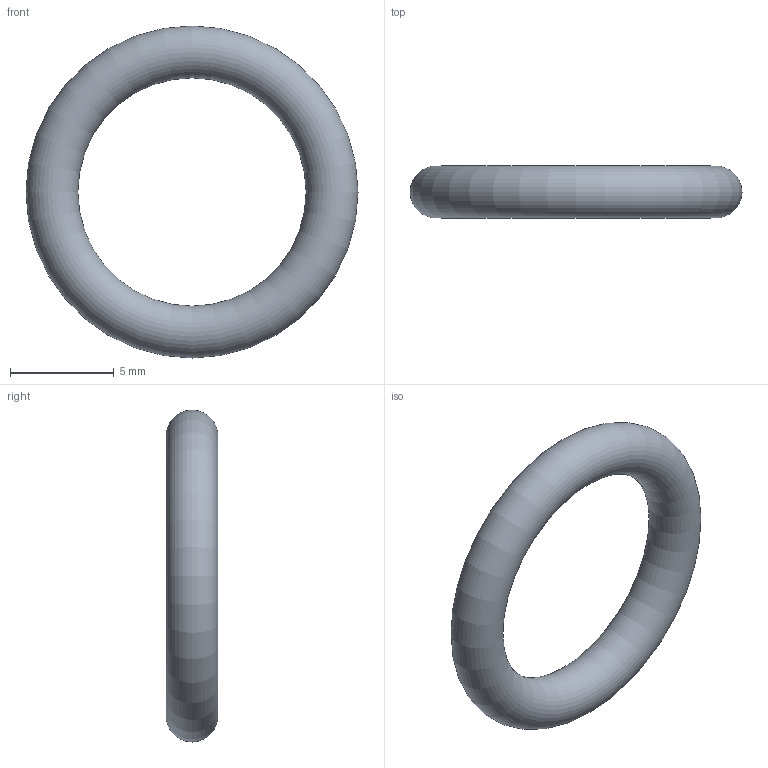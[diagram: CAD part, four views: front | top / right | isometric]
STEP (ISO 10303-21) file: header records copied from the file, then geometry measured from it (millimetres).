
FILE_DESCRIPTION( ( 'STEP AP203' ), '1' );
FILE_NAME( 'C:/Temp/Ganter_Step_05_03_2020/data/3_5/or638/O-Ring OR638-11.00-2.50-70.stp', '2020-03-12T13:44:27', ( 'License CC BY-ND 4.0' ), ( 'CADENAS' ), ' ', 'PARTsolutions', ' ' );
FILE_SCHEMA( ( 'CONFIG_CONTROL_DESIGN' ) );
Length unit declared in the file: millimetre
Products named in the file (1): _O-Ring OR638-11.00-2.50-70
Bounding box: 16 x 2.5 x 16 mm (x, y, z)
Volume: 208.2 mm3; surface area: 333.1 mm2
Topology: 1 solids, 1 shells, 1 faces, 2 edges, 1 vertices
Faces by surface type: torus 1
Entity records: 62 total; most frequent: CC_DESIGN_PERSON_AND_ORGANIZATION_ASSIGNMENT 5, PERSON_AND_ORGANIZATION_ROLE 4, DIRECTION 4, CARTESIAN_POINT 3, DATE_TIME_ROLE 2, CC_DESIGN_DATE_AND_TIME_ASSIGNMENT 2, AXIS2_PLACEMENT_3D 2, DIMENSIONAL_EXPONENTS 2
